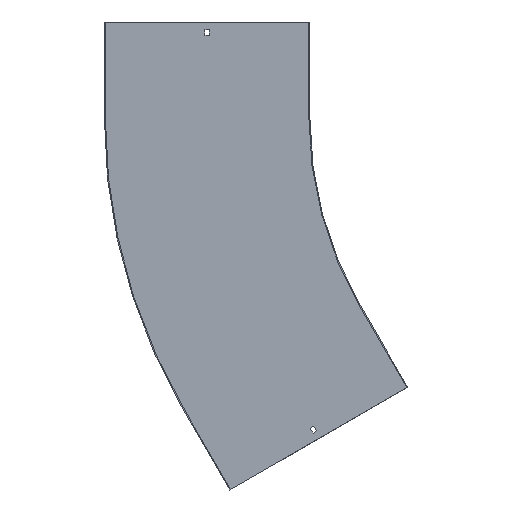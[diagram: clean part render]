
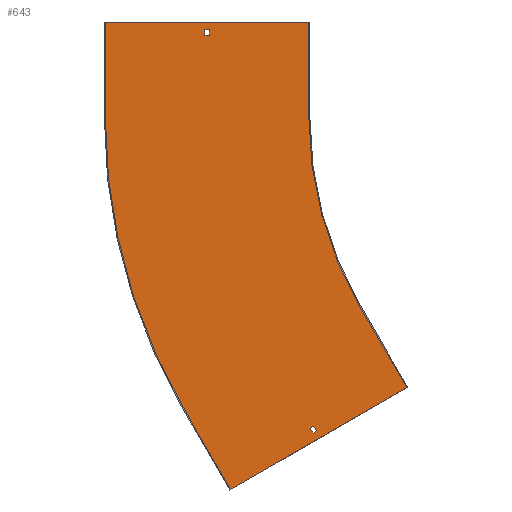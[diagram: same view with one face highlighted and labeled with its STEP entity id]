
A CAD part, front view. The second image highlights one B-rep face of the part: STEP entity #643.
In plain terms, the highlighted planar face has unit normal (0, -1, 0).
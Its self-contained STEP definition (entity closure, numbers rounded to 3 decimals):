
#5 = LINE ( 'NONE', #259, #816 ) ;
#12 = ORIENTED_EDGE ( 'NONE', *, *, #272, .T. ) ;
#25 = VECTOR ( 'NONE', #856, 1000. ) ;
#26 = ORIENTED_EDGE ( 'NONE', *, *, #712, .F. ) ;
#27 = VERTEX_POINT ( 'NONE', #40 ) ;
#31 = VERTEX_POINT ( 'NONE', #435 ) ;
#36 = ORIENTED_EDGE ( 'NONE', *, *, #244, .F. ) ;
#39 = VECTOR ( 'NONE', #431, 1000. ) ;
#40 = CARTESIAN_POINT ( 'NONE',  ( -753.25, -1.5, 129. ) ) ;
#51 = DIRECTION ( 'NONE',  ( 0., 1., 0. ) ) ;
#54 = EDGE_CURVE ( 'NONE', #597, #295, #565, .T. ) ;
#57 = ORIENTED_EDGE ( 'NONE', *, *, #54, .T. ) ;
#69 = LINE ( 'NONE', #130, #574 ) ;
#73 = CARTESIAN_POINT ( 'NONE',  ( -910., -1.5, 0. ) ) ;
#80 = VECTOR ( 'NONE', #264, 1000. ) ;
#119 = EDGE_LOOP ( 'NONE', ( #26, #164, #618, #785 ) ) ;
#121 = CARTESIAN_POINT ( 'NONE',  ( 0., -1.5, 0. ) ) ;
#125 = DIRECTION ( 'NONE',  ( 0., 0., -1. ) ) ;
#130 = CARTESIAN_POINT ( 'NONE',  ( -652.334, -1.5, -376.625 ) ) ;
#133 = CARTESIAN_POINT ( 'NONE',  ( 0., -1.5, 0. ) ) ;
#137 = CARTESIAN_POINT ( 'NONE',  ( 0., -1.5, 129. ) ) ;
#160 = VERTEX_POINT ( 'NONE', #472 ) ;
#164 = ORIENTED_EDGE ( 'NONE', *, *, #192, .F. ) ;
#168 = DIRECTION ( 'NONE',  ( 0.5, 0., -0.866 ) ) ;
#169 = VECTOR ( 'NONE', #794, 1000. ) ;
#171 = EDGE_CURVE ( 'NONE', #647, #31, #341, .T. ) ;
#185 = CARTESIAN_POINT ( 'NONE',  ( -753.25, -1.5, 138. ) ) ;
#192 = EDGE_CURVE ( 'NONE', #323, #687, #599, .T. ) ;
#193 = ORIENTED_EDGE ( 'NONE', *, *, #605, .F. ) ;
#195 = LINE ( 'NONE', #276, #25 ) ;
#200 = FACE_OUTER_BOUND ( 'NONE', #845, .T. ) ;
#213 = EDGE_CURVE ( 'NONE', #653, #729, #414, .T. ) ;
#216 = LINE ( 'NONE', #549, #238 ) ;
#219 = CARTESIAN_POINT ( 'NONE',  ( -753.25, -1.5, 0. ) ) ;
#222 = VECTOR ( 'NONE', #832, 1000. ) ;
#223 = LINE ( 'NONE', #481, #630 ) ;
#227 = CARTESIAN_POINT ( 'NONE',  ( -910., -1.5, 150. ) ) ;
#238 = VECTOR ( 'NONE', #168, 1000. ) ;
#244 = EDGE_CURVE ( 'NONE', #729, #342, #216, .T. ) ;
#258 = ORIENTED_EDGE ( 'NONE', *, *, #763, .T. ) ;
#259 = CARTESIAN_POINT ( 'NONE',  ( -434.656, -1.5, -424.154 ) ) ;
#264 = DIRECTION ( 'NONE',  ( -0.5, 0., 0.866 ) ) ;
#269 = DIRECTION ( 'NONE',  ( 0.866, 0., 0.5 ) ) ;
#272 = EDGE_CURVE ( 'NONE', #27, #413, #539, .T. ) ;
#276 = CARTESIAN_POINT ( 'NONE',  ( -911.5, -1.5, 150. ) ) ;
#277 = DIRECTION ( 'NONE',  ( 0., 0., -1. ) ) ;
#288 = CARTESIAN_POINT ( 'NONE',  ( -583.334, -1.5, -496.137 ) ) ;
#290 = VECTOR ( 'NONE', #269, 1000. ) ;
#295 = VERTEX_POINT ( 'NONE', #676 ) ;
#296 = LINE ( 'NONE', #612, #351 ) ;
#321 = CIRCLE ( 'NONE', #717, 910. ) ;
#323 = VERTEX_POINT ( 'NONE', #288 ) ;
#325 = EDGE_LOOP ( 'NONE', ( #258, #57, #685, #12 ) ) ;
#332 = CARTESIAN_POINT ( 'NONE',  ( 69., -1.5, -119.512 ) ) ;
#341 = LINE ( 'NONE', #592, #80 ) ;
#342 = VERTEX_POINT ( 'NONE', #553 ) ;
#346 = LINE ( 'NONE', #543, #547 ) ;
#351 = VECTOR ( 'NONE', #352, 1000. ) ;
#352 = DIRECTION ( 'NONE',  ( 0., 0., -1. ) ) ;
#362 = EDGE_CURVE ( 'NONE', #542, #680, #452, .T. ) ;
#365 = DIRECTION ( 'NONE',  ( 1., 0., 0. ) ) ;
#387 = VERTEX_POINT ( 'NONE', #828 ) ;
#407 = DIRECTION ( 'NONE',  ( 0., -1., 0. ) ) ;
#413 = VERTEX_POINT ( 'NONE', #185 ) ;
#414 = CIRCLE ( 'NONE', #629, 590. ) ;
#430 = DIRECTION ( 'NONE',  ( -0.5, 0., 0.866 ) ) ;
#431 = DIRECTION ( 'NONE',  ( 0., 0., 1. ) ) ;
#434 = CARTESIAN_POINT ( 'NONE',  ( -910., -1.5, 0. ) ) ;
#435 = CARTESIAN_POINT ( 'NONE',  ( -788.083, -1.5, -455. ) ) ;
#452 = LINE ( 'NONE', #434, #533 ) ;
#457 = AXIS2_PLACEMENT_3D ( 'NONE', #133, #797, #652 ) ;
#461 = FACE_BOUND ( 'NONE', #325, .T. ) ;
#465 = ORIENTED_EDGE ( 'NONE', *, *, #171, .F. ) ;
#472 = CARTESIAN_POINT ( 'NONE',  ( -587.834, -1.5, -488.342 ) ) ;
#474 = DIRECTION ( 'NONE',  ( -0.866, 0., -0.5 ) ) ;
#481 = CARTESIAN_POINT ( 'NONE',  ( 0., -1.5, 138. ) ) ;
#489 = CARTESIAN_POINT ( 'NONE',  ( -510.955, -1.5, -295. ) ) ;
#493 = EDGE_CURVE ( 'NONE', #31, #542, #321, .T. ) ;
#506 = ORIENTED_EDGE ( 'NONE', *, *, #493, .F. ) ;
#510 = DIRECTION ( 'NONE',  ( 0., 0., 1. ) ) ;
#516 = DIRECTION ( 'NONE',  ( 0.5, 0., -0.866 ) ) ;
#522 = ORIENTED_EDGE ( 'NONE', *, *, #659, .F. ) ;
#533 = VECTOR ( 'NONE', #510, 1000. ) ;
#535 = CARTESIAN_POINT ( 'NONE',  ( -646.704, -1.5, -373.375 ) ) ;
#536 = ORIENTED_EDGE ( 'NONE', *, *, #580, .F. ) ;
#539 = LINE ( 'NONE', #219, #39 ) ;
#541 = EDGE_CURVE ( 'NONE', #295, #27, #655, .T. ) ;
#542 = VERTEX_POINT ( 'NONE', #73 ) ;
#543 = CARTESIAN_POINT ( 'NONE',  ( 64.5, -1.5, -111.717 ) ) ;
#547 = VECTOR ( 'NONE', #474, 1000. ) ;
#549 = CARTESIAN_POINT ( 'NONE',  ( -510.955, -1.5, -295. ) ) ;
#553 = CARTESIAN_POINT ( 'NONE',  ( -435.955, -1.5, -424.904 ) ) ;
#565 = LINE ( 'NONE', #570, #222 ) ;
#570 = CARTESIAN_POINT ( 'NONE',  ( -746.75, -1.5, 0. ) ) ;
#574 = VECTOR ( 'NONE', #516, 1000. ) ;
#577 = VERTEX_POINT ( 'NONE', #735 ) ;
#580 = EDGE_CURVE ( 'NONE', #342, #647, #5, .T. ) ;
#592 = CARTESIAN_POINT ( 'NONE',  ( -713.083, -1.5, -584.904 ) ) ;
#594 = EDGE_CURVE ( 'NONE', #160, #323, #69, .T. ) ;
#597 = VERTEX_POINT ( 'NONE', #660 ) ;
#599 = LINE ( 'NONE', #332, #290 ) ;
#605 = EDGE_CURVE ( 'NONE', #680, #577, #195, .T. ) ;
#612 = CARTESIAN_POINT ( 'NONE',  ( -590., -1.5, 150. ) ) ;
#618 = ORIENTED_EDGE ( 'NONE', *, *, #594, .F. ) ;
#628 = ORIENTED_EDGE ( 'NONE', *, *, #362, .F. ) ;
#629 = AXIS2_PLACEMENT_3D ( 'NONE', #732, #407, #277 ) ;
#630 = VECTOR ( 'NONE', #365, 1000. ) ;
#643 = ADVANCED_FACE ( 'NONE', ( #790, #200, #461 ), #723, .T. ) ;
#647 = VERTEX_POINT ( 'NONE', #802 ) ;
#652 = DIRECTION ( 'NONE',  ( 0., 0., -1. ) ) ;
#653 = VERTEX_POINT ( 'NONE', #682 ) ;
#655 = LINE ( 'NONE', #137, #169 ) ;
#659 = EDGE_CURVE ( 'NONE', #577, #653, #296, .T. ) ;
#660 = CARTESIAN_POINT ( 'NONE',  ( -746.75, -1.5, 138. ) ) ;
#676 = CARTESIAN_POINT ( 'NONE',  ( -746.75, -1.5, 129. ) ) ;
#680 = VERTEX_POINT ( 'NONE', #227 ) ;
#682 = CARTESIAN_POINT ( 'NONE',  ( -590., -1.5, 0. ) ) ;
#685 = ORIENTED_EDGE ( 'NONE', *, *, #541, .T. ) ;
#687 = VERTEX_POINT ( 'NONE', #825 ) ;
#697 = EDGE_CURVE ( 'NONE', #387, #160, #346, .T. ) ;
#712 = EDGE_CURVE ( 'NONE', #687, #387, #740, .T. ) ;
#717 = AXIS2_PLACEMENT_3D ( 'NONE', #121, #51, #125 ) ;
#723 = PLANE ( 'NONE',  #457 ) ;
#729 = VERTEX_POINT ( 'NONE', #489 ) ;
#732 = CARTESIAN_POINT ( 'NONE',  ( 0., -1.5, 0. ) ) ;
#735 = CARTESIAN_POINT ( 'NONE',  ( -590., -1.5, 150. ) ) ;
#740 = LINE ( 'NONE', #535, #817 ) ;
#763 = EDGE_CURVE ( 'NONE', #413, #597, #223, .T. ) ;
#785 = ORIENTED_EDGE ( 'NONE', *, *, #697, .F. ) ;
#786 = DIRECTION ( 'NONE',  ( -0.866, 0., -0.5 ) ) ;
#788 = ORIENTED_EDGE ( 'NONE', *, *, #213, .F. ) ;
#790 = FACE_BOUND ( 'NONE', #119, .T. ) ;
#794 = DIRECTION ( 'NONE',  ( -1., 0., 0. ) ) ;
#797 = DIRECTION ( 'NONE',  ( 0., -1., 0. ) ) ;
#802 = CARTESIAN_POINT ( 'NONE',  ( -713.083, -1.5, -584.904 ) ) ;
#816 = VECTOR ( 'NONE', #786, 1000. ) ;
#817 = VECTOR ( 'NONE', #430, 1000. ) ;
#825 = CARTESIAN_POINT ( 'NONE',  ( -577.704, -1.5, -492.887 ) ) ;
#828 = CARTESIAN_POINT ( 'NONE',  ( -582.204, -1.5, -485.092 ) ) ;
#832 = DIRECTION ( 'NONE',  ( 0., 0., -1. ) ) ;
#845 = EDGE_LOOP ( 'NONE', ( #193, #628, #506, #465, #536, #36, #788, #522 ) ) ;
#856 = DIRECTION ( 'NONE',  ( 1., 0., 0. ) ) ;
